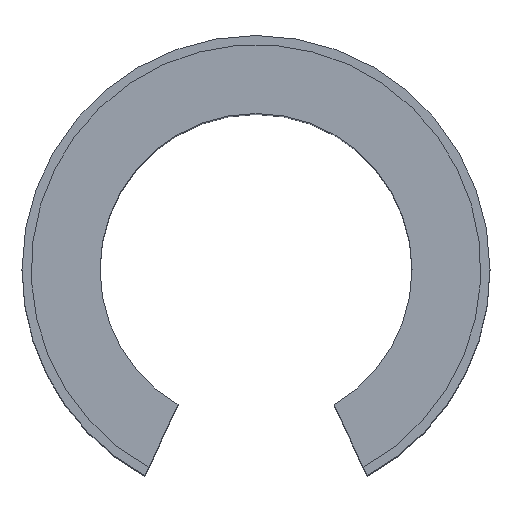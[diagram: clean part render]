
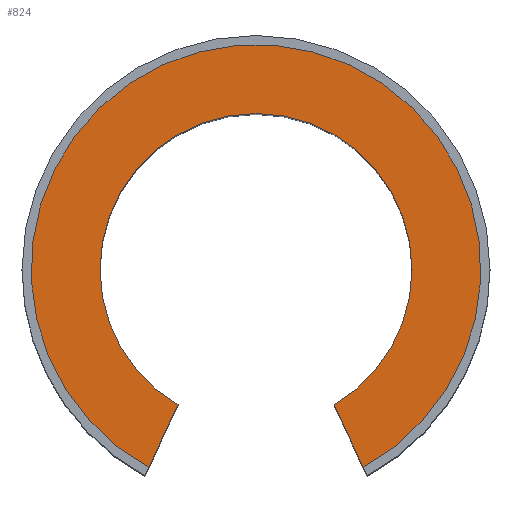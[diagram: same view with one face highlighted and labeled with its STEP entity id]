
A CAD part, top view. The second image highlights one B-rep face of the part: STEP entity #824.
In plain terms, the highlighted planar face has unit normal (0, 0, 1).
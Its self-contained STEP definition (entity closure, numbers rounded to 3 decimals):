
#51=CARTESIAN_POINT('',(30.0,0.,110.0));
#52=VERTEX_POINT('',#51);
#68=CARTESIAN_POINT('',(15.,-25.981,110.0));
#69=VERTEX_POINT('',#68);
#76=CARTESIAN_POINT('',(0.0,0.0,110.0));
#77=DIRECTION('',(0.0,0.0,-1.0));
#78=DIRECTION('',(-1.0,0.0,0.0));
#79=AXIS2_PLACEMENT_3D('',#76,#77,#78);
#80=CIRCLE('',#79,30.0);
#81=EDGE_CURVE('',#52,#69,#80,.T.);
#91=CARTESIAN_POINT('',(-30.0,0.,110.0));
#92=VERTEX_POINT('',#91);
#101=CARTESIAN_POINT('',(-15.0,-25.981,110.0));
#102=VERTEX_POINT('',#101);
#103=CARTESIAN_POINT('',(0.0,0.0,110.0));
#104=DIRECTION('',(0.0,0.0,-1.0));
#105=DIRECTION('',(-1.0,0.0,0.0));
#106=AXIS2_PLACEMENT_3D('',#103,#104,#105);
#107=CIRCLE('',#106,30.0);
#108=EDGE_CURVE('',#102,#92,#107,.T.);
#469=CARTESIAN_POINT('',(-20.615,-38.021,110.0));
#470=VERTEX_POINT('',#469);
#539=CARTESIAN_POINT('',(-20.615,-38.021,110.0));
#540=DIRECTION('',(0.423,0.906,0.0));
#541=VECTOR('',#540,13.285);
#542=LINE('',#539,#541);
#543=EDGE_CURVE('',#470,#102,#542,.T.);
#553=CARTESIAN_POINT('',(20.615,-38.021,110.0));
#554=VERTEX_POINT('',#553);
#561=CARTESIAN_POINT('',(15.,-25.981,110.0));
#562=DIRECTION('',(0.423,-0.906,0.0));
#563=VECTOR('',#562,13.285);
#564=LINE('',#561,#563);
#565=EDGE_CURVE('',#69,#554,#564,.T.);
#799=CARTESIAN_POINT('',(0.0,0.0,110.0));
#800=DIRECTION('',(0.0,0.0,-1.0));
#801=DIRECTION('',(-1.0,0.0,0.0));
#802=AXIS2_PLACEMENT_3D('',#799,#800,#801);
#803=PLANE('',#802);
#804=ORIENTED_EDGE('',*,*,#565,.T.);
#805=CARTESIAN_POINT('',(0.0,0.0,110.0));
#806=DIRECTION('',(0.0,0.0,-1.0));
#807=DIRECTION('',(1.0,0.0,0.0));
#808=AXIS2_PLACEMENT_3D('',#805,#806,#807);
#809=CIRCLE('',#808,43.25);
#810=EDGE_CURVE('',#470,#554,#809,.T.);
#811=ORIENTED_EDGE('',*,*,#810,.F.);
#812=ORIENTED_EDGE('',*,*,#543,.T.);
#813=ORIENTED_EDGE('',*,*,#108,.T.);
#814=CARTESIAN_POINT('',(0.0,0.0,110.0));
#815=DIRECTION('',(0.0,0.0,-1.0));
#816=DIRECTION('',(-1.0,0.0,0.0));
#817=AXIS2_PLACEMENT_3D('',#814,#815,#816);
#818=CIRCLE('',#817,30.0);
#819=EDGE_CURVE('',#92,#52,#818,.T.);
#820=ORIENTED_EDGE('',*,*,#819,.T.);
#821=ORIENTED_EDGE('',*,*,#81,.T.);
#822=EDGE_LOOP('',(#804,#811,#812,#813,#820,#821));
#823=FACE_OUTER_BOUND('',#822,.T.);
#824=ADVANCED_FACE('',(#823),#803,.F.);
